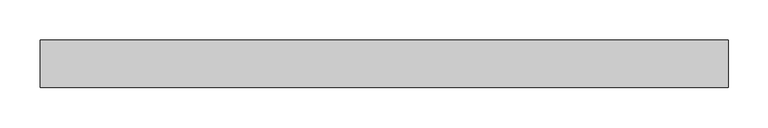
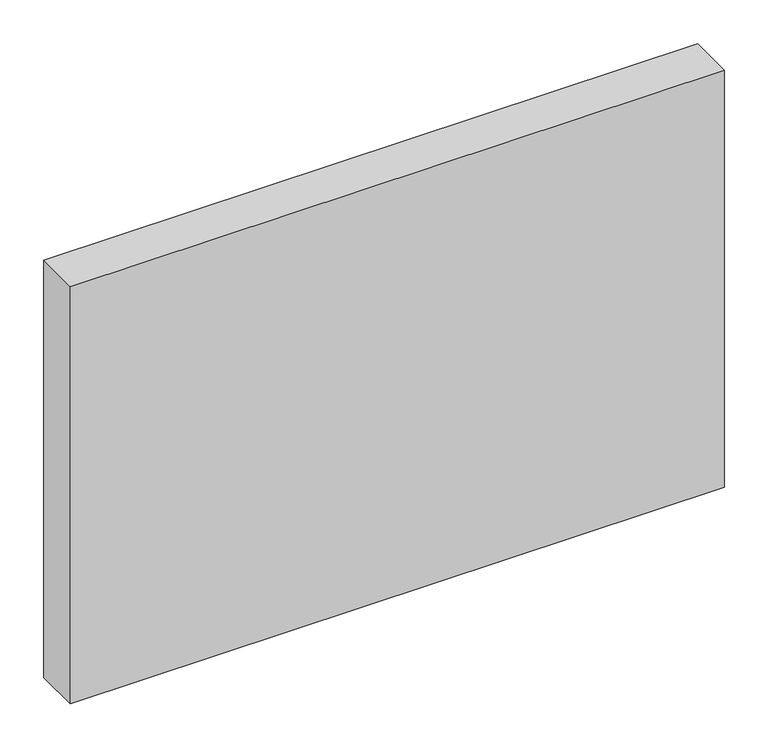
"""IFC4 building model written with IfcOpenShell, lengths in millimetres: plate geometry, Системная панель : Алюкобонд красный."""

from ifc_helpers import new_model, si_unit, origin, origin_with_axes, place, context, project, spatial, polyline, outline, extrude, source, transform, mapped, element, save


def plate_094ffc10(model_context):
    return source(origin(), model_context, "Body", "SweptSolid", [
        extrude(outline(polyline([(430.0, -10.5), (-430.0, -10.5), (-430.0, 49.5), (430.0, 49.5), (430.0, -10.5)])), origin_with_axes(), (0.0, 0.0, 1.0), 580.0),
    ])


if __name__ == "__main__":
    model = new_model("IFC4")
    model_context = context("Model", 3, world=origin())
    ifc_project = project(units=[si_unit("LENGTHUNIT", "METRE", prefix="MILLI")], contexts=[model_context])
    site = spatial("IfcSite", under=ifc_project)
    building = spatial("IfcBuilding", under=site)
    placement = place(None, origin())
    plate_shape = plate_094ffc10(model_context)
    element("IfcPlate", 1, ObjectType="Системная панель : Алюкобонд красный", at=placement, inside=building, context=model_context, shape_type="MappedRepresentation", body=[
        mapped(plate_shape, transform((0.0, 0.0, 0.0), x_axis=(1.0, 0.0, 0.0), y_axis=(0.0, 1.0, 0.0), z_axis=(0.0, 0.0, 1.0))),
    ])
    save(model, "model.ifc")
